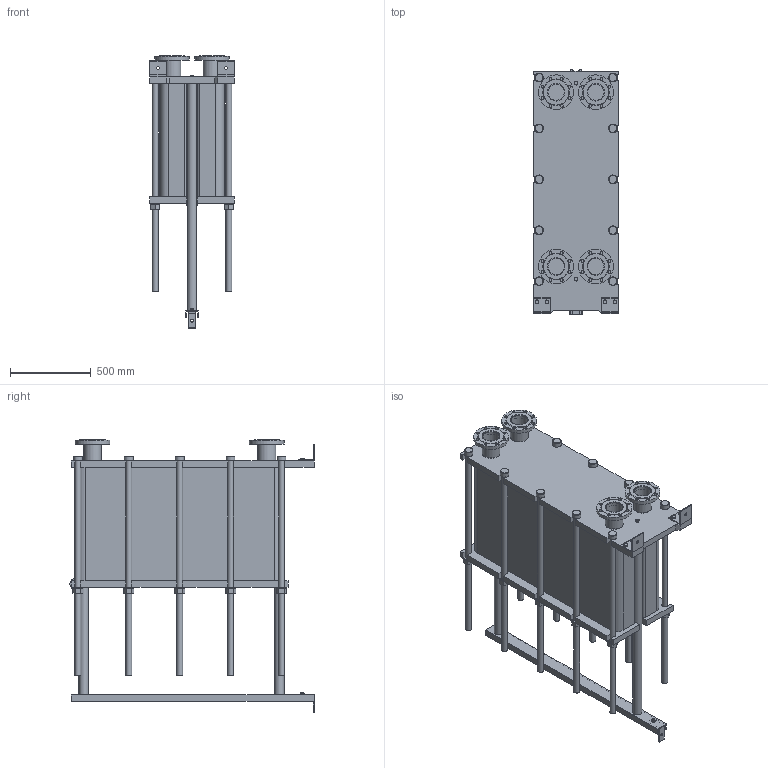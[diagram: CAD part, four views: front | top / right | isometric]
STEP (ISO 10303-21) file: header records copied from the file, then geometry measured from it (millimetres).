
FILE_DESCRIPTION(/* description */ (''),/* implementation_level */ '2;1');
FILE_NAME(/* name */ 'C:\Users\zhuro\Desktop\ENCO\TO\ЭН-04\ЭН-0,5-04-203-1.stp',/* time_stamp */ '2022-06-06T11:03:55+03:00',/* author */ ('zhuro'),/* organization */ (''),/* preprocessor_version */ 'ST-DEVELOPER v18.1',/* originating_system */ 'Autodesk Inventor 2022',/* authorisation */ '');
FILE_SCHEMA (('AUTOMOTIVE_DESIGN { 1 0 10303 214 3 1 1 }'));
Length unit declared in the file: millimetre
Products named in the file (1): ЭН-0,5-04-203-1
Bounding box: 520 x 1510 x 1681.5 mm (x, y, z)
Volume: 426754665.2 mm3; surface area: 10620241.7 mm2
Topology: 45 solids, 45 shells, 668 faces, 1611 edges, 1048 vertices
Faces by surface type: plane 457, cylinder 166, cone 39, torus 6
Full cylindrical faces by diameter (mm): 8 x4, 10 x2, 16 x8, 18 x35, 36 x25, 40 x2, 42 x1, 45 x4, 54 x10, 57 x2, 60 x10, 68 x2, 100 x4, 110 x8, 215 x4
Entity records: 23607 total; most frequent: CARTESIAN_POINT 7348, DIRECTION 3371, ORIENTED_EDGE 3142, EDGE_CURVE 1571, AXIS2_PLACEMENT_3D 1199, VERTEX_POINT 1044, LINE 973, VECTOR 973
